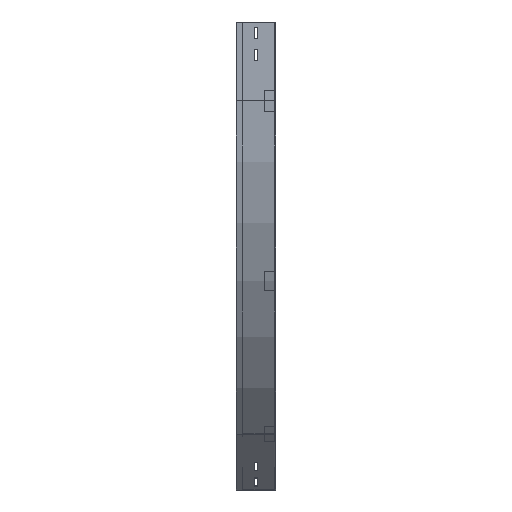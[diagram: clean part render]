
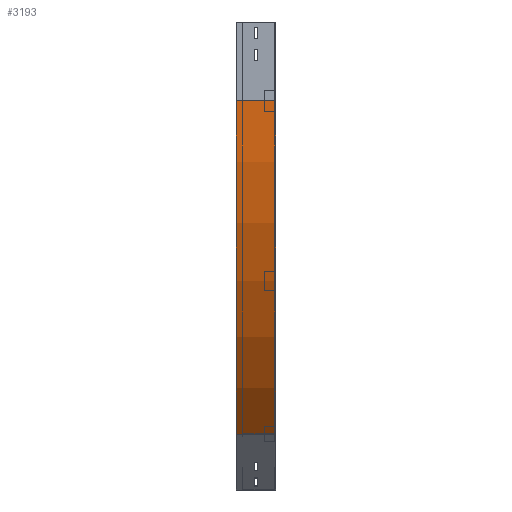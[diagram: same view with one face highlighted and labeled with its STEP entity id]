
A CAD part, left-side view. The second image highlights one B-rep face of the part: STEP entity #3193.
In plain terms, the highlighted cylindrical face has radius 900 mm (diameter 1800 mm), a partial arc.
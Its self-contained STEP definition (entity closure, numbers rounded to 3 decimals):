
#55 = DIRECTION ( 'NONE',  ( 0., -1., 0. ) ) ;
#86 = ORIENTED_EDGE ( 'NONE', *, *, #106, .T. ) ;
#106 = EDGE_CURVE ( 'NONE', #2909, #3444, #2196, .T. ) ;
#126 = VECTOR ( 'NONE', #911, 1000. ) ;
#180 = EDGE_CURVE ( 'NONE', #1714, #1543, #3767, .T. ) ;
#336 = ORIENTED_EDGE ( 'NONE', *, *, #2209, .F. ) ;
#388 = DIRECTION ( 'NONE',  ( 0., -1., 0. ) ) ;
#645 = DIRECTION ( 'NONE',  ( 0., 0., -1. ) ) ;
#708 = ORIENTED_EDGE ( 'NONE', *, *, #180, .F. ) ;
#846 = AXIS2_PLACEMENT_3D ( 'NONE', #3587, #55, #2080 ) ;
#911 = DIRECTION ( 'NONE',  ( 0., -1., 0. ) ) ;
#1200 = DIRECTION ( 'NONE',  ( 0., -1., 0. ) ) ;
#1240 = CARTESIAN_POINT ( 'NONE',  ( 263.604, 0., -786.396 ) ) ;
#1543 = VERTEX_POINT ( 'NONE', #3509 ) ;
#1597 = EDGE_CURVE ( 'NONE', #3444, #1543, #2709, .T. ) ;
#1714 = VERTEX_POINT ( 'NONE', #2094 ) ;
#1794 = FACE_OUTER_BOUND ( 'NONE', #2589, .T. ) ;
#1835 = CYLINDRICAL_SURFACE ( 'NONE', #2584, 900. ) ;
#1847 = CARTESIAN_POINT ( 'NONE',  ( 900., 0., -150. ) ) ;
#2080 = DIRECTION ( 'NONE',  ( -1., 0., 0. ) ) ;
#2094 = CARTESIAN_POINT ( 'NONE',  ( 0., 0., -150. ) ) ;
#2162 = DIRECTION ( 'NONE',  ( -1., 0., 0. ) ) ;
#2196 = CIRCLE ( 'NONE', #846, 900. ) ;
#2209 = EDGE_CURVE ( 'NONE', #2909, #1714, #2356, .T. ) ;
#2356 = LINE ( 'NONE', #3582, #126 ) ;
#2451 = DIRECTION ( 'NONE',  ( 0., -1., 0. ) ) ;
#2584 = AXIS2_PLACEMENT_3D ( 'NONE', #3312, #2451, #645 ) ;
#2589 = EDGE_LOOP ( 'NONE', ( #708, #336, #86, #3704 ) ) ;
#2709 = LINE ( 'NONE', #1240, #2825 ) ;
#2825 = VECTOR ( 'NONE', #1200, 1000. ) ;
#2866 = CARTESIAN_POINT ( 'NONE',  ( 263.604, 75., -786.396 ) ) ;
#2909 = VERTEX_POINT ( 'NONE', #3382 ) ;
#3193 = ADVANCED_FACE ( 'NONE', ( #1794 ), #1835, .T. ) ;
#3312 = CARTESIAN_POINT ( 'NONE',  ( 900., 0., -150. ) ) ;
#3382 = CARTESIAN_POINT ( 'NONE',  ( 0., 75., -150. ) ) ;
#3444 = VERTEX_POINT ( 'NONE', #2866 ) ;
#3509 = CARTESIAN_POINT ( 'NONE',  ( 263.604, 0., -786.396 ) ) ;
#3582 = CARTESIAN_POINT ( 'NONE',  ( 0., 0., -150. ) ) ;
#3587 = CARTESIAN_POINT ( 'NONE',  ( 900., 75., -150. ) ) ;
#3641 = AXIS2_PLACEMENT_3D ( 'NONE', #1847, #388, #2162 ) ;
#3704 = ORIENTED_EDGE ( 'NONE', *, *, #1597, .T. ) ;
#3767 = CIRCLE ( 'NONE', #3641, 900. ) ;
